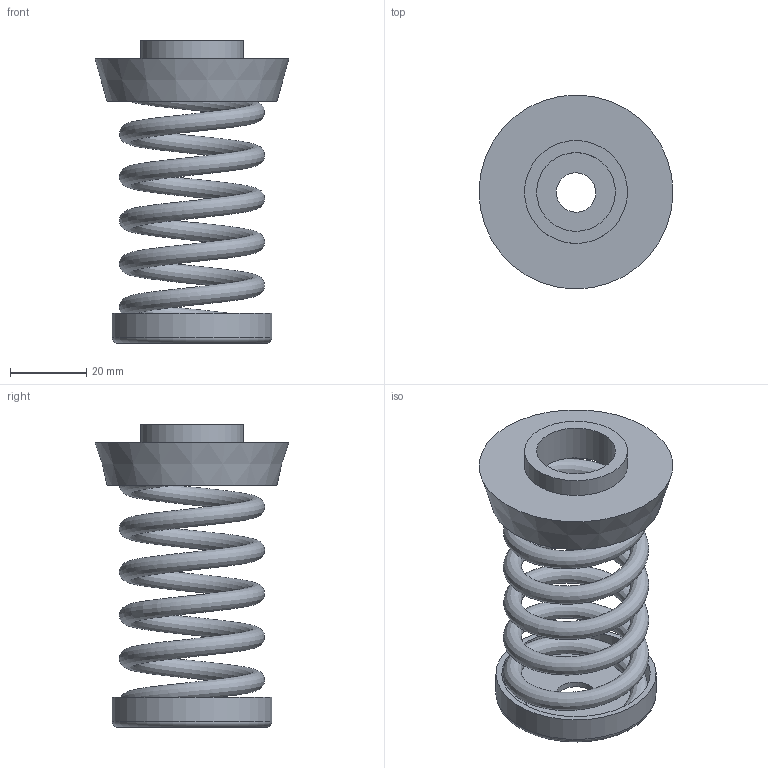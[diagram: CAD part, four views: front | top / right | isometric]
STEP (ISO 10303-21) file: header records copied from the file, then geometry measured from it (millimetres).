
FILE_DESCRIPTION(/* description */ (''),/* implementation_level */ '2;1');
FILE_NAME(/* name */ '\\Mleuckthor2\cad-proe_solids\WEBSITE FILES 05.22.13\STEP\IM\IM-X-210.stp',/* time_stamp */ '2016-03-05T13:35:25-05:00',/* author */ ('rramoutar'),/* organization */ ('Mason Industries Inc.'),/* preprocessor_version */ 'ST-DEVELOPER v15.6',/* originating_system */ 'Autodesk Inventor 2015',/* authorisation */ '');
FILE_SCHEMA (('CONFIG_CONTROL_DESIGN'));
Length unit declared in the file: inch
Products named in the file (1): IM-X-210 HANGER
Bounding box: 50.8 x 50.8 x 79.29 mm (x, y, z)
Volume: 27854 mm3; surface area: 22982.6 mm2
Topology: 4 solids, 4 shells, 26 faces, 42 edges, 28 vertices
Faces by surface type: plane 14, cylinder 9, bspline 1, torus 1, cone 1
Full cylindrical faces by diameter (mm): 10.319 x1, 20.637 x1, 25.4 x1, 26.987 x1, 38.1 x1, 38.894 x1, 39.687 x1, 39.688 x1, 41.906 x1
Entity records: 1947 total; most frequent: CARTESIAN_POINT 1405, DIRECTION 100, ORIENTED_EDGE 62, AXIS2_PLACEMENT_3D 49, EDGE_LOOP 47, EDGE_CURVE 31, STYLED_ITEM 30, VERTEX_POINT 28
